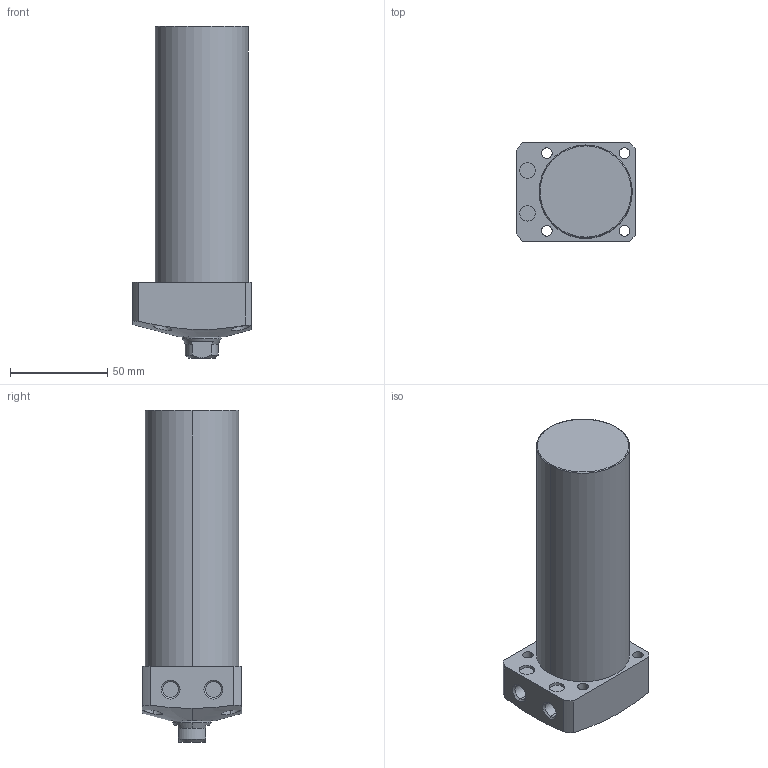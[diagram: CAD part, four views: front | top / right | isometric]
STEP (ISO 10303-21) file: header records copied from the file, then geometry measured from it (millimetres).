
FILE_DESCRIPTION (( 'STEP AP203' ), '1' );
FILE_NAME ('CLL-048CA-105.STEP', '2019-12-21T07:08:08', ( '' ), ( '' ), 'SwSTEP 2.0', 'SolidWorks 2015', '' );
FILE_SCHEMA (( 'CONFIG_CONTROL_DESIGN' ));
Length unit declared in the file: millimetre
Products named in the file (1): CLL-048CA-105
Bounding box: 61 x 51 x 171 mm (x, y, z)
Volume: 313061.9 mm3; surface area: 34681.5 mm2
Topology: 1 solids, 1 shells, 74 faces, 170 edges, 107 vertices
Faces by surface type: cylinder 35, plane 22, cone 15, torus 2
Entity records: 2535 total; most frequent: CARTESIAN_POINT 748, DIRECTION 374, ORIENTED_EDGE 336, EDGE_CURVE 168, AXIS2_PLACEMENT_3D 155, VERTEX_POINT 107, EDGE_LOOP 93, CIRCLE 80
